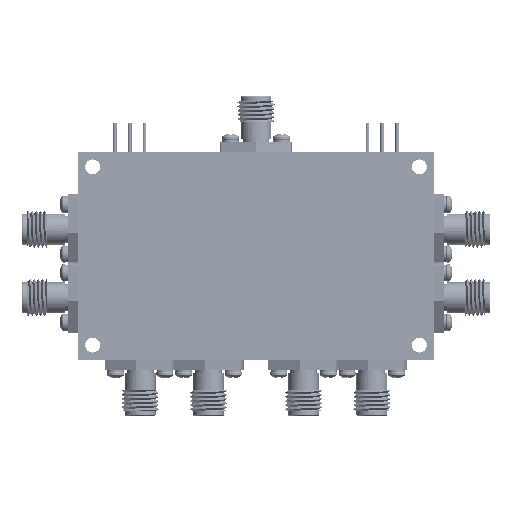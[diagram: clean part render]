
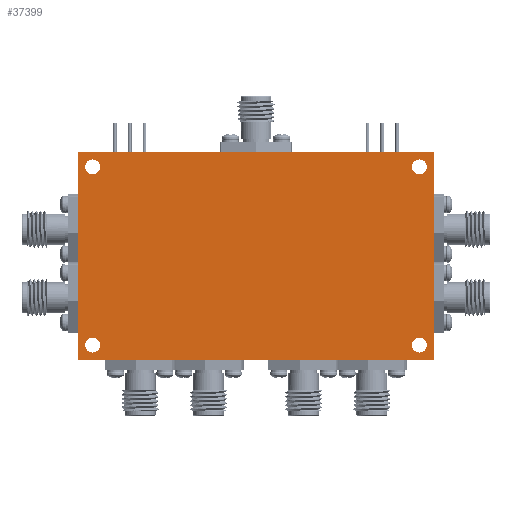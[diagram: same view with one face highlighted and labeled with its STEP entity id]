
A CAD part, front view. The second image highlights one B-rep face of the part: STEP entity #37399.
In plain terms, the highlighted planar face has unit normal (0, -1, 0).
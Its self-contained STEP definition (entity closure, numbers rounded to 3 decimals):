
#590 = ORIENTED_EDGE ( 'NONE', *, *, #105278, .F. ) ;
#4818 = ORIENTED_EDGE ( 'NONE', *, *, #75396, .F. ) ;
#5405 = EDGE_LOOP ( 'NONE', ( #66207, #24841 ) ) ;
#5909 = EDGE_CURVE ( 'NONE', #71412, #117206, #51435, .T. ) ;
#8498 = AXIS2_PLACEMENT_3D ( 'NONE', #132051, #121770, #78540 ) ;
#8854 = DIRECTION ( 'NONE',  ( 0., 0., -1. ) ) ;
#10316 = EDGE_LOOP ( 'NONE', ( #13699, #59771 ) ) ;
#10700 = VERTEX_POINT ( 'NONE', #36804 ) ;
#12526 = AXIS2_PLACEMENT_3D ( 'NONE', #62384, #31516, #135172 ) ;
#13699 = ORIENTED_EDGE ( 'NONE', *, *, #19255, .F. ) ;
#15269 = AXIS2_PLACEMENT_3D ( 'NONE', #86464, #74828, #117342 ) ;
#16245 = CIRCLE ( 'NONE', #119355, 1.27 ) ;
#18461 = CARTESIAN_POINT ( 'NONE',  ( -45.039, -4.487, 7.373 ) ) ;
#18542 = CIRCLE ( 'NONE', #47082, 1.27 ) ;
#19255 = EDGE_CURVE ( 'NONE', #10700, #113149, #16245, .T. ) ;
#19673 = AXIS2_PLACEMENT_3D ( 'NONE', #131308, #57863, #118998 ) ;
#20823 = VERTEX_POINT ( 'NONE', #43050 ) ;
#22511 = CARTESIAN_POINT ( 'NONE',  ( -45.039, -4.487, 7.373 ) ) ;
#23104 = DIRECTION ( 'NONE',  ( 0., 0., -1. ) ) ;
#24841 = ORIENTED_EDGE ( 'NONE', *, *, #60389, .F. ) ;
#25601 = CARTESIAN_POINT ( 'NONE',  ( 13.381, -4.487, 4.833 ) ) ;
#26266 = ORIENTED_EDGE ( 'NONE', *, *, #80906, .F. ) ;
#28806 = DIRECTION ( 'NONE',  ( 1., 0., 0. ) ) ;
#28832 = CARTESIAN_POINT ( 'NONE',  ( 13.381, -4.487, -25.647 ) ) ;
#31516 = DIRECTION ( 'NONE',  ( 0., -1., 0. ) ) ;
#35152 = EDGE_LOOP ( 'NONE', ( #590, #4818 ) ) ;
#35243 = EDGE_CURVE ( 'NONE', #38927, #130466, #70324, .T. ) ;
#36804 = CARTESIAN_POINT ( 'NONE',  ( 13.381, -4.487, -26.917 ) ) ;
#37399 = ADVANCED_FACE ( 'NONE', ( #85555, #63604, #117818, #105445, #95178 ), #42998, .T. ) ;
#38101 = VECTOR ( 'NONE', #69456, 1000. ) ;
#38927 = VERTEX_POINT ( 'NONE', #95696 ) ;
#42570 = CARTESIAN_POINT ( 'NONE',  ( 13.381, -4.487, 3.563 ) ) ;
#42998 = PLANE ( 'NONE',  #118987 ) ;
#43050 = CARTESIAN_POINT ( 'NONE',  ( 15.921, -4.487, -28.187 ) ) ;
#46061 = ORIENTED_EDGE ( 'NONE', *, *, #62956, .F. ) ;
#46596 = CARTESIAN_POINT ( 'NONE',  ( -45.039, -4.487, 7.373 ) ) ;
#47082 = AXIS2_PLACEMENT_3D ( 'NONE', #25601, #87391, #97658 ) ;
#47483 = EDGE_LOOP ( 'NONE', ( #113045, #75057 ) ) ;
#48136 = LINE ( 'NONE', #89340, #38101 ) ;
#50379 = CIRCLE ( 'NONE', #19673, 1.27 ) ;
#50383 = CIRCLE ( 'NONE', #15269, 1.27 ) ;
#51435 = LINE ( 'NONE', #18461, #58318 ) ;
#53673 = DIRECTION ( 'NONE',  ( 0., 0., -1. ) ) ;
#54792 = CARTESIAN_POINT ( 'NONE',  ( 13.381, -4.487, 6.103 ) ) ;
#56349 = DIRECTION ( 'NONE',  ( 0., -1., 0. ) ) ;
#57863 = DIRECTION ( 'NONE',  ( 0., -1., 0. ) ) ;
#58318 = VECTOR ( 'NONE', #28806, 1000. ) ;
#59771 = ORIENTED_EDGE ( 'NONE', *, *, #80206, .F. ) ;
#59805 = CARTESIAN_POINT ( 'NONE',  ( -42.499, -4.487, -26.917 ) ) ;
#60389 = EDGE_CURVE ( 'NONE', #130466, #38927, #61146, .T. ) ;
#61146 = CIRCLE ( 'NONE', #8498, 1.27 ) ;
#61266 = EDGE_CURVE ( 'NONE', #89733, #66087, #50379, .T. ) ;
#62331 = LINE ( 'NONE', #22511, #123189 ) ;
#62384 = CARTESIAN_POINT ( 'NONE',  ( -42.499, -4.487, -25.647 ) ) ;
#62956 = EDGE_CURVE ( 'NONE', #117206, #20823, #64359, .T. ) ;
#63604 = FACE_BOUND ( 'NONE', #47483, .T. ) ;
#64294 = CARTESIAN_POINT ( 'NONE',  ( -45.039, -4.487, 7.373 ) ) ;
#64359 = LINE ( 'NONE', #83589, #96403 ) ;
#66087 = VERTEX_POINT ( 'NONE', #59805 ) ;
#66207 = ORIENTED_EDGE ( 'NONE', *, *, #35243, .F. ) ;
#67279 = ORIENTED_EDGE ( 'NONE', *, *, #84393, .F. ) ;
#69456 = DIRECTION ( 'NONE',  ( -1., 0., 0. ) ) ;
#70071 = CARTESIAN_POINT ( 'NONE',  ( -45.039, -4.487, -28.187 ) ) ;
#70324 = CIRCLE ( 'NONE', #98754, 1.27 ) ;
#71412 = VERTEX_POINT ( 'NONE', #46596 ) ;
#71756 = CIRCLE ( 'NONE', #12526, 1.27 ) ;
#74623 = VERTEX_POINT ( 'NONE', #54792 ) ;
#74828 = DIRECTION ( 'NONE',  ( 0., -1., 0. ) ) ;
#75057 = ORIENTED_EDGE ( 'NONE', *, *, #61266, .F. ) ;
#75396 = EDGE_CURVE ( 'NONE', #74623, #83667, #18542, .T. ) ;
#76299 = DIRECTION ( 'NONE',  ( 0., 0., -1. ) ) ;
#78540 = DIRECTION ( 'NONE',  ( 0., 0., -1. ) ) ;
#80206 = EDGE_CURVE ( 'NONE', #113149, #10700, #125154, .T. ) ;
#80906 = EDGE_CURVE ( 'NONE', #124311, #71412, #62331, .T. ) ;
#83589 = CARTESIAN_POINT ( 'NONE',  ( 15.921, -4.487, 7.373 ) ) ;
#83667 = VERTEX_POINT ( 'NONE', #42570 ) ;
#84393 = EDGE_CURVE ( 'NONE', #20823, #124311, #48136, .T. ) ;
#85370 = CARTESIAN_POINT ( 'NONE',  ( 13.381, -4.487, -24.377 ) ) ;
#85555 = FACE_OUTER_BOUND ( 'NONE', #134967, .T. ) ;
#86464 = CARTESIAN_POINT ( 'NONE',  ( 13.381, -4.487, 4.833 ) ) ;
#87077 = ORIENTED_EDGE ( 'NONE', *, *, #5909, .F. ) ;
#87391 = DIRECTION ( 'NONE',  ( 0., -1., 0. ) ) ;
#87434 = CARTESIAN_POINT ( 'NONE',  ( -42.499, -4.487, 6.103 ) ) ;
#89085 = CARTESIAN_POINT ( 'NONE',  ( -42.499, -4.487, -24.377 ) ) ;
#89340 = CARTESIAN_POINT ( 'NONE',  ( -45.039, -4.487, -28.187 ) ) ;
#89733 = VERTEX_POINT ( 'NONE', #89085 ) ;
#94158 = DIRECTION ( 'NONE',  ( 0., -1., 0. ) ) ;
#95178 = FACE_BOUND ( 'NONE', #10316, .T. ) ;
#95696 = CARTESIAN_POINT ( 'NONE',  ( -42.499, -4.487, 3.563 ) ) ;
#96403 = VECTOR ( 'NONE', #135759, 1000. ) ;
#97532 = CARTESIAN_POINT ( 'NONE',  ( 13.381, -4.487, -25.647 ) ) ;
#97658 = DIRECTION ( 'NONE',  ( 0., 0., -1. ) ) ;
#98754 = AXIS2_PLACEMENT_3D ( 'NONE', #126434, #94158, #53673 ) ;
#100624 = EDGE_CURVE ( 'NONE', #66087, #89733, #71756, .T. ) ;
#105278 = EDGE_CURVE ( 'NONE', #83667, #74623, #50383, .T. ) ;
#105422 = AXIS2_PLACEMENT_3D ( 'NONE', #28832, #124219, #8854 ) ;
#105445 = FACE_BOUND ( 'NONE', #35152, .T. ) ;
#106218 = DIRECTION ( 'NONE',  ( 0., 0., 1. ) ) ;
#111981 = CARTESIAN_POINT ( 'NONE',  ( 15.921, -4.487, 7.373 ) ) ;
#113045 = ORIENTED_EDGE ( 'NONE', *, *, #100624, .F. ) ;
#113149 = VERTEX_POINT ( 'NONE', #85370 ) ;
#117131 = DIRECTION ( 'NONE',  ( 0., -1., 0. ) ) ;
#117206 = VERTEX_POINT ( 'NONE', #111981 ) ;
#117342 = DIRECTION ( 'NONE',  ( 0., 0., -1. ) ) ;
#117818 = FACE_BOUND ( 'NONE', #5405, .T. ) ;
#118987 = AXIS2_PLACEMENT_3D ( 'NONE', #64294, #117131, #23104 ) ;
#118998 = DIRECTION ( 'NONE',  ( 0., 0., -1. ) ) ;
#119355 = AXIS2_PLACEMENT_3D ( 'NONE', #97532, #56349, #76299 ) ;
#121770 = DIRECTION ( 'NONE',  ( 0., -1., 0. ) ) ;
#123189 = VECTOR ( 'NONE', #106218, 1000. ) ;
#124219 = DIRECTION ( 'NONE',  ( 0., -1., 0. ) ) ;
#124311 = VERTEX_POINT ( 'NONE', #70071 ) ;
#125154 = CIRCLE ( 'NONE', #105422, 1.27 ) ;
#126434 = CARTESIAN_POINT ( 'NONE',  ( -42.499, -4.487, 4.833 ) ) ;
#130466 = VERTEX_POINT ( 'NONE', #87434 ) ;
#131308 = CARTESIAN_POINT ( 'NONE',  ( -42.499, -4.487, -25.647 ) ) ;
#132051 = CARTESIAN_POINT ( 'NONE',  ( -42.499, -4.487, 4.833 ) ) ;
#134967 = EDGE_LOOP ( 'NONE', ( #26266, #67279, #46061, #87077 ) ) ;
#135172 = DIRECTION ( 'NONE',  ( 0., 0., -1. ) ) ;
#135759 = DIRECTION ( 'NONE',  ( 0., 0., -1. ) ) ;
